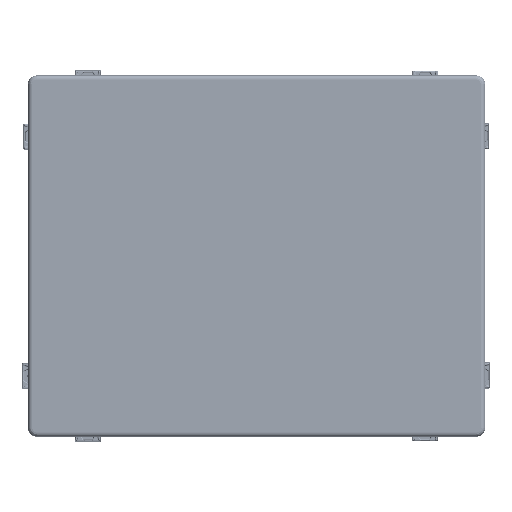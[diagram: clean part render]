
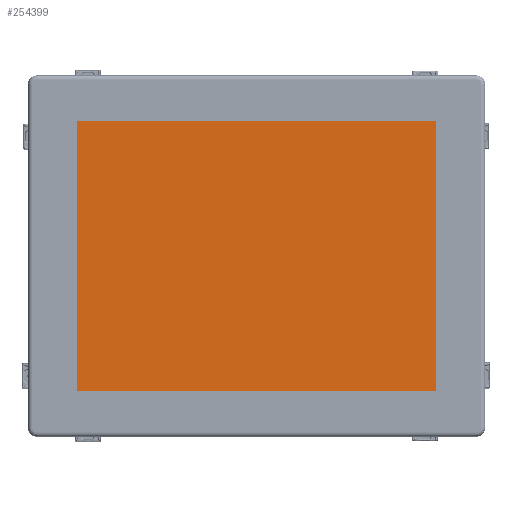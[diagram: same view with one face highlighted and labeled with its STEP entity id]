
A CAD part, top view. The second image highlights one B-rep face of the part: STEP entity #254399.
In plain terms, the highlighted planar face has unit normal (0, 0, 1).
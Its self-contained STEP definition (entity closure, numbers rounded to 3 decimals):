
#18403=PLANE('',#272923);
#28403=FACE_OUTER_BOUND('',#43383,.T.);
#43383=EDGE_LOOP('',(#183008,#183009,#183010,#183011));
#61860=LINE('',#374281,#87702);
#61863=LINE('',#374287,#87705);
#61866=LINE('',#374293,#87708);
#61869=LINE('',#374297,#87711);
#87702=VECTOR('',#298388,10.);
#87705=VECTOR('',#298393,10.);
#87708=VECTOR('',#298398,10.);
#87711=VECTOR('',#298403,10.);
#123015=VERTEX_POINT('',#374278);
#123016=VERTEX_POINT('',#374280);
#123018=VERTEX_POINT('',#374286);
#123020=VERTEX_POINT('',#374292);
#146685=EDGE_CURVE('',#123016,#123015,#61860,.T.);
#146688=EDGE_CURVE('',#123018,#123016,#61863,.T.);
#146691=EDGE_CURVE('',#123020,#123018,#61866,.T.);
#146694=EDGE_CURVE('',#123015,#123020,#61869,.T.);
#183008=ORIENTED_EDGE('',*,*,#146694,.T.);
#183009=ORIENTED_EDGE('',*,*,#146691,.T.);
#183010=ORIENTED_EDGE('',*,*,#146688,.T.);
#183011=ORIENTED_EDGE('',*,*,#146685,.T.);
#254399=ADVANCED_FACE('',(#28403),#18403,.T.);
#272923=AXIS2_PLACEMENT_3D('',#374298,#298404,#298405);
#298388=DIRECTION('',(1.,0.,0.));
#298393=DIRECTION('',(0.,-1.,0.));
#298398=DIRECTION('',(-1.,0.,0.));
#298403=DIRECTION('',(0.,1.,0.));
#298404=DIRECTION('center_axis',(0.,0.,1.));
#298405=DIRECTION('ref_axis',(1.,0.,0.));
#374278=CARTESIAN_POINT('',(91.5,-70.5,1.4));
#374280=CARTESIAN_POINT('',(-91.5,-70.5,1.4));
#374281=CARTESIAN_POINT('',(-91.5,-70.5,1.4));
#374286=CARTESIAN_POINT('',(-91.5,70.5,1.4));
#374287=CARTESIAN_POINT('',(-91.5,70.5,1.4));
#374292=CARTESIAN_POINT('',(91.5,70.5,1.4));
#374293=CARTESIAN_POINT('',(91.5,70.5,1.4));
#374297=CARTESIAN_POINT('',(91.5,-70.5,1.4));
#374298=CARTESIAN_POINT('Origin',(0.,0.,1.4));
